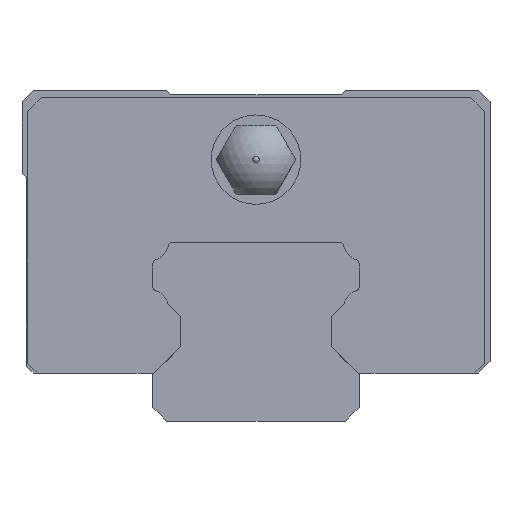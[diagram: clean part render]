
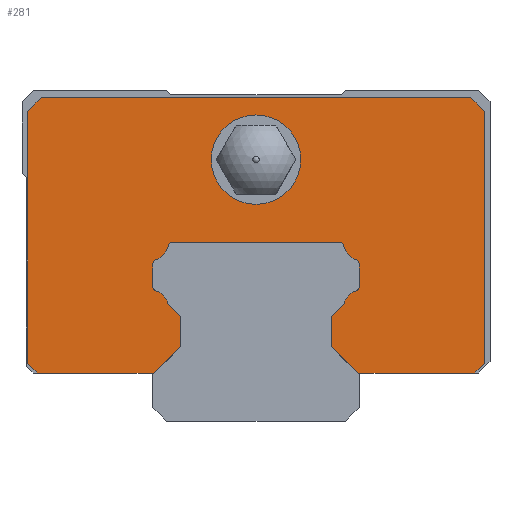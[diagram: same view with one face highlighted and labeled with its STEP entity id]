
A CAD part, front view. The second image highlights one B-rep face of the part: STEP entity #281.
In plain terms, the highlighted planar face has unit normal (0, -1, 0).
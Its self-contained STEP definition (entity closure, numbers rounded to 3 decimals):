
#281=ADVANCED_FACE('',(#559,#560),#561,.T.);
#559=FACE_OUTER_BOUND('',#878,.T.);
#560=FACE_BOUND('',#879,.T.);
#561=PLANE('',#880);
#878=EDGE_LOOP('',(#1838,#1839,#1840,#1841,#1842,#1843,#1844,#1845,#1846,#1847,#1848,#1849,#1850,#1851,#1852,#1853,#1854,#1855,#1856,#1857,#1858,#1859,#1860,#1861,#1862,#1863,#1864,#1865));
#879=EDGE_LOOP('',(#1866,#1867,#1868));
#880=AXIS2_PLACEMENT_3D('',#1869,#1870,#1871);
#1838=ORIENTED_EDGE('',*,*,#2501,.F.);
#1839=ORIENTED_EDGE('',*,*,#2502,.F.);
#1840=ORIENTED_EDGE('',*,*,#2503,.F.);
#1841=ORIENTED_EDGE('',*,*,#2504,.F.);
#1842=ORIENTED_EDGE('',*,*,#2488,.F.);
#1843=ORIENTED_EDGE('',*,*,#2493,.F.);
#1844=ORIENTED_EDGE('',*,*,#2505,.F.);
#1845=ORIENTED_EDGE('',*,*,#2506,.F.);
#1846=ORIENTED_EDGE('',*,*,#2476,.F.);
#1847=ORIENTED_EDGE('',*,*,#2507,.F.);
#1848=ORIENTED_EDGE('',*,*,#2387,.F.);
#1849=ORIENTED_EDGE('',*,*,#2384,.F.);
#1850=ORIENTED_EDGE('',*,*,#2390,.F.);
#1851=ORIENTED_EDGE('',*,*,#2508,.F.);
#1852=ORIENTED_EDGE('',*,*,#2509,.F.);
#1853=ORIENTED_EDGE('',*,*,#2444,.F.);
#1854=ORIENTED_EDGE('',*,*,#2510,.F.);
#1855=ORIENTED_EDGE('',*,*,#2466,.F.);
#1856=ORIENTED_EDGE('',*,*,#2511,.F.);
#1857=ORIENTED_EDGE('',*,*,#2512,.T.);
#1858=ORIENTED_EDGE('',*,*,#2489,.T.);
#1859=ORIENTED_EDGE('',*,*,#2470,.T.);
#1860=ORIENTED_EDGE('',*,*,#2513,.T.);
#1861=ORIENTED_EDGE('',*,*,#2448,.T.);
#1862=ORIENTED_EDGE('',*,*,#2514,.T.);
#1863=ORIENTED_EDGE('',*,*,#2497,.T.);
#1864=ORIENTED_EDGE('',*,*,#2451,.T.);
#1865=ORIENTED_EDGE('',*,*,#2515,.T.);
#1866=ORIENTED_EDGE('',*,*,#2516,.F.);
#1867=ORIENTED_EDGE('',*,*,#2517,.F.);
#1868=ORIENTED_EDGE('',*,*,#2322,.F.);
#1869=CARTESIAN_POINT('',(0.0,0.0,19.));
#1870=DIRECTION('',(0.0,-1.0,0.0));
#1871=DIRECTION('',(0.0,0.0,-1.0));
#2322=EDGE_CURVE('',#2808,#2811,#2812,.T.);
#2384=EDGE_CURVE('',#2921,#2917,#2923,.T.);
#2387=EDGE_CURVE('',#2917,#2925,#2928,.T.);
#2390=EDGE_CURVE('',#2931,#2921,#2933,.T.);
#2444=EDGE_CURVE('',#3035,#3031,#3037,.T.);
#2448=EDGE_CURVE('',#3042,#3040,#3043,.T.);
#2451=EDGE_CURVE('',#3047,#3045,#3048,.T.);
#2466=EDGE_CURVE('',#3067,#3063,#3069,.T.);
#2470=EDGE_CURVE('',#3074,#3072,#3075,.T.);
#2476=EDGE_CURVE('',#3083,#3079,#3085,.T.);
#2488=EDGE_CURVE('',#3099,#3095,#3101,.T.);
#2489=EDGE_CURVE('',#3102,#3074,#3103,.T.);
#2493=EDGE_CURVE('',#3107,#3099,#3109,.T.);
#2497=EDGE_CURVE('',#3115,#3047,#3116,.T.);
#2501=EDGE_CURVE('',#3120,#3121,#3122,.T.);
#2502=EDGE_CURVE('',#3123,#3120,#3124,.T.);
#2503=EDGE_CURVE('',#3125,#3123,#3126,.T.);
#2504=EDGE_CURVE('',#3095,#3125,#3127,.T.);
#2505=EDGE_CURVE('',#3128,#3107,#3129,.T.);
#2506=EDGE_CURVE('',#3079,#3128,#3130,.T.);
#2507=EDGE_CURVE('',#2925,#3083,#3131,.T.);
#2508=EDGE_CURVE('',#3132,#2931,#3133,.T.);
#2509=EDGE_CURVE('',#3031,#3132,#3134,.T.);
#2510=EDGE_CURVE('',#3063,#3035,#3135,.T.);
#2511=EDGE_CURVE('',#3136,#3067,#3137,.T.);
#2512=EDGE_CURVE('',#3136,#3102,#3138,.T.);
#2513=EDGE_CURVE('',#3072,#3042,#3139,.T.);
#2514=EDGE_CURVE('',#3040,#3115,#3140,.T.);
#2515=EDGE_CURVE('',#3045,#3121,#3141,.T.);
#2516=EDGE_CURVE('',#3142,#2808,#3143,.T.);
#2517=EDGE_CURVE('',#2811,#3142,#3144,.T.);
#2808=VERTEX_POINT('',#3526);
#2811=VERTEX_POINT('',#3530);
#2812=CIRCLE('',#3531,3.25);
#2917=VERTEX_POINT('',#3669);
#2921=VERTEX_POINT('',#3674);
#2923=CIRCLE('',#3677,1.4);
#2925=VERTEX_POINT('',#3679);
#2928=CIRCLE('',#3683,0.3);
#2931=VERTEX_POINT('',#3686);
#2933=CIRCLE('',#3689,0.3);
#3031=VERTEX_POINT('',#3836);
#3035=VERTEX_POINT('',#3841);
#3037=CIRCLE('',#3844,1.4);
#3040=VERTEX_POINT('',#3847);
#3042=VERTEX_POINT('',#3850);
#3043=LINE('',#3851,#3852);
#3045=VERTEX_POINT('',#3855);
#3047=VERTEX_POINT('',#3858);
#3048=LINE('',#3859,#3860);
#3063=VERTEX_POINT('',#3883);
#3067=VERTEX_POINT('',#3889);
#3069=LINE('',#3892,#3893);
#3072=VERTEX_POINT('',#3896);
#3074=VERTEX_POINT('',#3899);
#3075=LINE('',#3900,#3901);
#3079=VERTEX_POINT('',#3906);
#3083=VERTEX_POINT('',#3911);
#3085=CIRCLE('',#3914,0.3);
#3095=VERTEX_POINT('',#3928);
#3099=VERTEX_POINT('',#3933);
#3101=CIRCLE('',#3936,0.3);
#3102=VERTEX_POINT('',#3937);
#3103=LINE('',#3938,#3939);
#3107=VERTEX_POINT('',#3945);
#3109=LINE('',#3948,#3949);
#3115=VERTEX_POINT('',#3958);
#3116=LINE('',#3959,#3960);
#3120=VERTEX_POINT('',#3967);
#3121=VERTEX_POINT('',#3968);
#3122=LINE('',#3969,#3970);
#3123=VERTEX_POINT('',#3971);
#3124=LINE('',#3972,#3973);
#3125=VERTEX_POINT('',#3974);
#3126=LINE('',#3975,#3976);
#3127=CIRCLE('',#3977,1.4);
#3128=VERTEX_POINT('',#3978);
#3129=CIRCLE('',#3979,0.3);
#3130=CIRCLE('',#3980,1.4);
#3131=LINE('',#3981,#3982);
#3132=VERTEX_POINT('',#3983);
#3133=LINE('',#3984,#3985);
#3134=CIRCLE('',#3986,0.3);
#3135=LINE('',#3987,#3988);
#3136=VERTEX_POINT('',#3989);
#3137=LINE('',#3990,#3991);
#3138=LINE('',#3992,#3993);
#3139=LINE('',#3994,#3995);
#3140=LINE('',#3996,#3997);
#3141=LINE('',#3998,#3999);
#3142=VERTEX_POINT('',#4000);
#3143=CIRCLE('',#4001,3.25);
#3144=CIRCLE('',#4002,3.25);
#3526=CARTESIAN_POINT('',(0.,0.0,22.25));
#3530=CARTESIAN_POINT('',(0.,0.0,15.75));
#3531=AXIS2_PLACEMENT_3D('',#4362,#4363,#4364);
#3669=CARTESIAN_POINT('',(6.368,0.0,12.76));
#3674=CARTESIAN_POINT('',(7.295,0.0,11.712));
#3677=AXIS2_PLACEMENT_3D('',#4478,#4479,#4480);
#3679=CARTESIAN_POINT('',(6.074,0.0,13.));
#3683=AXIS2_PLACEMENT_3D('',#4485,#4486,#4487);
#3686=CARTESIAN_POINT('',(7.5,0.0,11.428));
#3689=AXIS2_PLACEMENT_3D('',#4492,#4493,#4494);
#3836=CARTESIAN_POINT('',(7.295,0.0,9.488));
#3841=CARTESIAN_POINT('',(6.376,0.0,8.476));
#3844=AXIS2_PLACEMENT_3D('',#4552,#4553,#4554);
#3847=CARTESIAN_POINT('',(-15.6,0.0,23.5));
#3850=CARTESIAN_POINT('',(15.6,0.0,23.5));
#3851=CARTESIAN_POINT('',(15.6,0.0,23.5));
#3852=VECTOR('',#4562,1000.0);
#3855=CARTESIAN_POINT('',(-15.9,0.0,3.5));
#3858=CARTESIAN_POINT('',(-16.6,0.0,4.2));
#3859=CARTESIAN_POINT('',(-16.6,0.0,4.2));
#3860=VECTOR('',#4565,1000.0);
#3883=CARTESIAN_POINT('',(5.5,0.0,7.6));
#3889=CARTESIAN_POINT('',(5.5,0.0,5.4));
#3892=CARTESIAN_POINT('',(5.5,0.0,19.));
#3893=VECTOR('',#4589,1000.0);
#3896=CARTESIAN_POINT('',(16.6,0.0,22.5));
#3899=CARTESIAN_POINT('',(16.6,0.0,4.2));
#3900=CARTESIAN_POINT('',(16.6,0.0,4.2));
#3901=VECTOR('',#4597,1000.0);
#3906=CARTESIAN_POINT('',(-6.368,0.0,12.76));
#3911=CARTESIAN_POINT('',(-6.074,0.0,13.0));
#3914=AXIS2_PLACEMENT_3D('',#4607,#4608,#4609);
#3928=CARTESIAN_POINT('',(-7.295,0.0,9.488));
#3933=CARTESIAN_POINT('',(-7.5,0.0,9.772));
#3936=AXIS2_PLACEMENT_3D('',#4631,#4632,#4633);
#3937=CARTESIAN_POINT('',(15.9,0.0,3.5));
#3938=CARTESIAN_POINT('',(15.9,0.0,3.5));
#3939=VECTOR('',#4634,1000.0);
#3945=CARTESIAN_POINT('',(-7.5,0.0,11.428));
#3948=CARTESIAN_POINT('',(-7.5,0.0,19.));
#3949=VECTOR('',#4638,1000.0);
#3958=CARTESIAN_POINT('',(-16.6,0.0,22.5));
#3959=CARTESIAN_POINT('',(-16.6,0.0,22.5));
#3960=VECTOR('',#4642,1000.0);
#3967=CARTESIAN_POINT('',(-5.5,0.0,5.4));
#3968=CARTESIAN_POINT('',(-7.4,0.0,3.5));
#3969=CARTESIAN_POINT('',(4.05,0.0,14.95));
#3970=VECTOR('',#4646,1000.0);
#3971=CARTESIAN_POINT('',(-5.5,0.0,7.6));
#3972=CARTESIAN_POINT('',(-5.5,0.0,19.));
#3973=VECTOR('',#4647,1000.0);
#3974=CARTESIAN_POINT('',(-6.376,0.0,8.476));
#3975=CARTESIAN_POINT('',(-8.45,0.0,10.55));
#3976=VECTOR('',#4648,1000.0);
#3977=AXIS2_PLACEMENT_3D('',#4649,#4650,#4651);
#3978=CARTESIAN_POINT('',(-7.295,0.0,11.712));
#3979=AXIS2_PLACEMENT_3D('',#4652,#4653,#4654);
#3980=AXIS2_PLACEMENT_3D('',#4655,#4656,#4657);
#3981=CARTESIAN_POINT('',(0.0,0.0,13.0));
#3982=VECTOR('',#4658,1000.0);
#3983=CARTESIAN_POINT('',(7.5,0.0,9.772));
#3984=CARTESIAN_POINT('',(7.5,0.0,19.));
#3985=VECTOR('',#4659,1000.0);
#3986=AXIS2_PLACEMENT_3D('',#4660,#4661,#4662);
#3987=CARTESIAN_POINT('',(8.45,0.0,10.55));
#3988=VECTOR('',#4663,1000.0);
#3989=CARTESIAN_POINT('',(7.4,0.0,3.5));
#3990=CARTESIAN_POINT('',(-4.05,0.0,14.95));
#3991=VECTOR('',#4664,1000.0);
#3992=CARTESIAN_POINT('',(-15.9,0.0,3.5));
#3993=VECTOR('',#4665,1000.0);
#3994=CARTESIAN_POINT('',(16.6,0.0,22.5));
#3995=VECTOR('',#4666,1000.0);
#3996=CARTESIAN_POINT('',(-15.6,0.0,23.5));
#3997=VECTOR('',#4667,1000.0);
#3998=CARTESIAN_POINT('',(-15.9,0.0,3.5));
#3999=VECTOR('',#4668,1000.0);
#4000=CARTESIAN_POINT('',(3.25,0.0,19.));
#4001=AXIS2_PLACEMENT_3D('',#4669,#4670,#4671);
#4002=AXIS2_PLACEMENT_3D('',#4672,#4673,#4674);
#4362=CARTESIAN_POINT('',(0.0,0.0,19.));
#4363=DIRECTION('',(0.0,-1.0,0.0));
#4364=DIRECTION('',(1.0,0.0,0.0));
#4478=CARTESIAN_POINT('',(7.74,0.0,13.04));
#4479=DIRECTION('',(0.0,1.0,0.0));
#4480=DIRECTION('',(0.0,0.0,-1.0));
#4485=CARTESIAN_POINT('',(6.074,0.0,12.7));
#4486=DIRECTION('',(0.0,-1.0,0.0));
#4487=DIRECTION('',(0.0,0.0,-1.0));
#4492=CARTESIAN_POINT('',(7.2,0.0,11.428));
#4493=DIRECTION('',(0.0,-1.0,0.0));
#4494=DIRECTION('',(0.0,0.0,-1.0));
#4552=CARTESIAN_POINT('',(7.74,0.0,8.16));
#4553=DIRECTION('',(0.0,1.0,0.0));
#4554=DIRECTION('',(0.0,0.0,-1.0));
#4562=DIRECTION('',(-1.0,0.0,0.0));
#4565=DIRECTION('',(0.707,0.0,-0.707));
#4589=DIRECTION('',(0.0,0.0,1.0));
#4597=DIRECTION('',(0.0,0.0,1.0));
#4607=CARTESIAN_POINT('',(-6.074,0.0,12.7));
#4608=DIRECTION('',(0.0,-1.0,0.0));
#4609=DIRECTION('',(0.0,0.0,-1.0));
#4631=CARTESIAN_POINT('',(-7.2,0.0,9.772));
#4632=DIRECTION('',(0.0,-1.0,0.0));
#4633=DIRECTION('',(0.0,0.0,-1.0));
#4634=DIRECTION('',(0.707,0.0,0.707));
#4638=DIRECTION('',(0.0,0.0,-1.0));
#4642=DIRECTION('',(0.0,0.0,-1.0));
#4646=DIRECTION('',(-0.707,0.0,-0.707));
#4647=DIRECTION('',(0.0,0.0,-1.0));
#4648=DIRECTION('',(0.707,0.0,-0.707));
#4649=CARTESIAN_POINT('',(-7.74,0.0,8.16));
#4650=DIRECTION('',(0.0,1.0,0.0));
#4651=DIRECTION('',(0.0,0.0,-1.0));
#4652=CARTESIAN_POINT('',(-7.2,0.0,11.428));
#4653=DIRECTION('',(0.0,-1.0,0.0));
#4654=DIRECTION('',(0.0,0.0,-1.0));
#4655=CARTESIAN_POINT('',(-7.74,0.0,13.04));
#4656=DIRECTION('',(0.0,1.0,0.0));
#4657=DIRECTION('',(0.0,0.0,-1.0));
#4658=DIRECTION('',(-1.0,0.0,0.0));
#4659=DIRECTION('',(0.0,0.0,1.0));
#4660=CARTESIAN_POINT('',(7.2,0.0,9.772));
#4661=DIRECTION('',(0.0,-1.0,0.0));
#4662=DIRECTION('',(0.0,0.0,-1.0));
#4663=DIRECTION('',(0.707,0.0,0.707));
#4664=DIRECTION('',(-0.707,0.0,0.707));
#4665=DIRECTION('',(1.0,0.0,0.));
#4666=DIRECTION('',(-0.707,0.0,0.707));
#4667=DIRECTION('',(-0.707,0.0,-0.707));
#4668=DIRECTION('',(1.0,0.0,0.));
#4669=CARTESIAN_POINT('',(0.0,0.0,19.));
#4670=DIRECTION('',(0.0,-1.0,0.0));
#4671=DIRECTION('',(1.0,0.0,0.0));
#4672=CARTESIAN_POINT('',(0.0,0.0,19.));
#4673=DIRECTION('',(0.0,-1.0,0.0));
#4674=DIRECTION('',(1.0,0.0,0.0));
